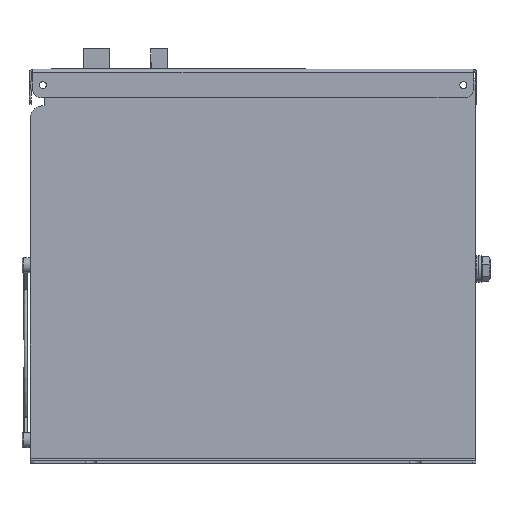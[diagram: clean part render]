
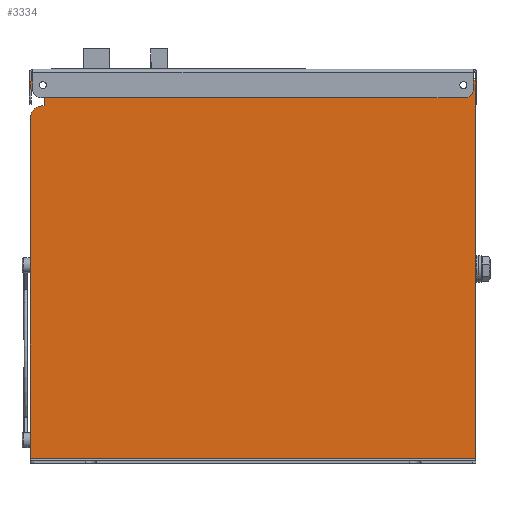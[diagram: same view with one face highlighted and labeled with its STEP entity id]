
A CAD part, left-side view. The second image highlights one B-rep face of the part: STEP entity #3334.
In plain terms, the highlighted planar face has unit normal (-1, 0, 0).
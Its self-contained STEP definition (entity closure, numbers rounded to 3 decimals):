
#3334=ADVANCED_FACE('',(#18423,#18425,#18427),#18429,.F.);
#18423=FACE_BOUND('',#18424,.T.);
#18424=EDGE_LOOP('',(#45890,#45891,#45892,#45893,#45894,#45895,#45896,#45897,#45898,
#45899));
#18425=FACE_BOUND('',#18426,.T.);
#18426=EDGE_LOOP('',(#45900));
#18427=FACE_BOUND('',#18428,.T.);
#18428=EDGE_LOOP('',(#45901));
#18429=PLANE('',#18430);
#18430=AXIS2_PLACEMENT_3D('',#18431,#18432,#18433);
#18431=CARTESIAN_POINT('',(-59.852,12.642,60.711));
#18432=DIRECTION('',(1.,0.,0.));
#18433=DIRECTION('',(0.,1.,0.));
#45890=ORIENTED_EDGE('',*,*,#67558,.T.);
#45891=ORIENTED_EDGE('',*,*,#66845,.F.);
#45892=ORIENTED_EDGE('',*,*,#67274,.F.);
#45893=ORIENTED_EDGE('',*,*,#67273,.F.);
#45894=ORIENTED_EDGE('',*,*,#67271,.F.);
#45895=ORIENTED_EDGE('',*,*,#67269,.T.);
#45896=ORIENTED_EDGE('',*,*,#67266,.T.);
#45897=ORIENTED_EDGE('',*,*,#67264,.T.);
#45898=ORIENTED_EDGE('',*,*,#67262,.F.);
#45899=ORIENTED_EDGE('',*,*,#67260,.F.);
#45900=ORIENTED_EDGE('',*,*,#67276,.T.);
#45901=ORIENTED_EDGE('',*,*,#67275,.T.);
#66845=EDGE_CURVE('',#78366,#78368,#78369,.T.);
#67260=EDGE_CURVE('',#78987,#78989,#78990,.T.);
#67262=EDGE_CURVE('',#78989,#78992,#78993,.F.);
#67264=EDGE_CURVE('',#78995,#78992,#78996,.T.);
#67266=EDGE_CURVE('',#78998,#78995,#78999,.T.);
#67269=EDGE_CURVE('',#79001,#78998,#79003,.T.);
#67271=EDGE_CURVE('',#79001,#79004,#79006,.F.);
#67273=EDGE_CURVE('',#79004,#79007,#79009,.T.);
#67274=EDGE_CURVE('',#79007,#78366,#79010,.F.);
#67275=EDGE_CURVE('',#79011,#79011,#79012,.T.);
#67276=EDGE_CURVE('',#79013,#79013,#79014,.T.);
#67558=EDGE_CURVE('',#78987,#78368,#79467,.T.);
#78366=VERTEX_POINT('',#103738);
#78368=VERTEX_POINT('',#103742);
#78369=LINE('',#103743,#103744);
#78987=VERTEX_POINT('',#105440);
#78989=VERTEX_POINT('',#105444);
#78990=LINE('',#105445,#105446);
#78992=VERTEX_POINT('',#105451);
#78993=CIRCLE('',#105452,7.5);
#78995=VERTEX_POINT('',#105459);
#78996=LINE('',#105460,#105461);
#78998=VERTEX_POINT('',#105466);
#78999=LINE('',#105467,#105468);
#79001=VERTEX_POINT('',#105473);
#79003=LINE('',#105477,#105478);
#79004=VERTEX_POINT('',#105480);
#79006=CIRCLE('',#105484,7.5);
#79007=VERTEX_POINT('',#105488);
#79009=LINE('',#105492,#105493);
#79010=CIRCLE('',#105495,7.5);
#79011=VERTEX_POINT('',#105499);
#79012=CIRCLE('',#105500,3.05);
#79013=VERTEX_POINT('',#105504);
#79014=CIRCLE('',#105505,3.05);
#79467=LINE('',#106746,#106747);
#103738=CARTESIAN_POINT('',(-59.852,-121.358,170.711));
#103742=CARTESIAN_POINT('',(-59.852,-121.358,-53.789));
#103743=CARTESIAN_POINT('',(-59.852,-121.358,170.711));
#103744=VECTOR('',#103745,1.);
#103745=DIRECTION('',(0.,0.,-1.));
#105440=CARTESIAN_POINT('',(-59.852,146.642,-53.789));
#105444=CARTESIAN_POINT('',(-59.852,146.642,150.711));
#105445=CARTESIAN_POINT('',(-59.852,146.642,-53.789));
#105446=VECTOR('',#105447,1.);
#105447=DIRECTION('',(0.,0.,1.));
#105451=CARTESIAN_POINT('',(-59.852,139.142,158.211));
#105452=AXIS2_PLACEMENT_3D('',#105453,#105454,#105455);
#105453=CARTESIAN_POINT('',(-59.852,139.142,150.711));
#105454=DIRECTION('',(-1.,0.,0.));
#105455=DIRECTION('',(0.,0.,1.));
#105459=CARTESIAN_POINT('',(-59.852,138.142,158.211));
#105460=CARTESIAN_POINT('',(-59.852,138.142,158.211));
#105461=VECTOR('',#105462,1.);
#105462=DIRECTION('',(0.,1.,0.));
#105466=CARTESIAN_POINT('',(-59.852,138.142,163.211));
#105467=CARTESIAN_POINT('',(-59.852,138.142,163.211));
#105468=VECTOR('',#105469,1.);
#105469=DIRECTION('',(0.,0.,-1.));
#105473=CARTESIAN_POINT('',(-59.852,139.142,163.211));
#105477=CARTESIAN_POINT('',(-59.852,139.142,163.211));
#105478=VECTOR('',#105479,1.);
#105479=DIRECTION('',(0.,-1.,0.));
#105480=CARTESIAN_POINT('',(-59.852,139.142,178.211));
#105484=AXIS2_PLACEMENT_3D('',#105485,#105486,#105487);
#105485=CARTESIAN_POINT('',(-59.852,139.142,170.711));
#105486=DIRECTION('',(-1.,0.,0.));
#105487=DIRECTION('',(0.,0.,1.));
#105488=CARTESIAN_POINT('',(-59.852,-113.858,178.211));
#105492=CARTESIAN_POINT('',(-59.852,139.142,178.211));
#105493=VECTOR('',#105494,1.);
#105494=DIRECTION('',(0.,-1.,0.));
#105495=AXIS2_PLACEMENT_3D('',#105496,#105497,#105498);
#105496=CARTESIAN_POINT('',(-59.852,-113.858,170.711));
#105497=DIRECTION('',(-1.,0.,0.));
#105498=DIRECTION('',(0.,-1.,0.));
#105499=CARTESIAN_POINT('',(-59.852,-110.808,170.711));
#105500=AXIS2_PLACEMENT_3D('',#105501,#105502,#105503);
#105501=CARTESIAN_POINT('',(-59.852,-113.858,170.711));
#105502=DIRECTION('',(1.,0.,0.));
#105503=DIRECTION('',(0.,1.,0.));
#105504=CARTESIAN_POINT('',(-59.852,142.192,170.711));
#105505=AXIS2_PLACEMENT_3D('',#105506,#105507,#105508);
#105506=CARTESIAN_POINT('',(-59.852,139.142,170.711));
#105507=DIRECTION('',(1.,0.,0.));
#105508=DIRECTION('',(0.,1.,0.));
#106746=CARTESIAN_POINT('',(-59.852,146.642,-53.789));
#106747=VECTOR('',#106748,1.);
#106748=DIRECTION('',(0.,-1.,0.));
